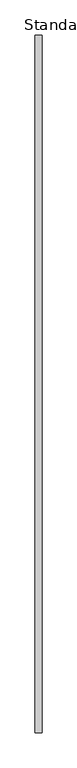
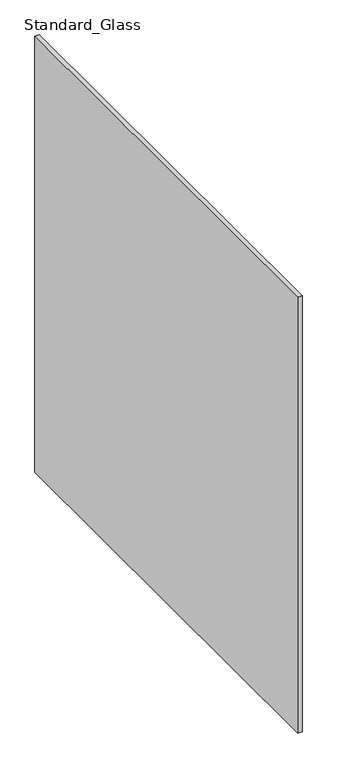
"""IFC4 building model written with IfcOpenShell, lengths in millimetres: railing geometry, Baluster-Excess-Fill-Straight-Panel-VIVA : Standard_Glass."""

from ifc_helpers import new_model, si_unit, frame, origin, place, context, project, spatial, polyline, outline, extrude, source, transform, mapped, element, save


def standard_glass_70b5ddb1(model_context):
    return source(origin(), model_context, "Body", "SweptSolid", [
        extrude(outline(polyline([(36.7665, -1.0851207), (36.7665, -987.425), (27.2415, -987.425), (27.2415, -1.0851207), (36.7665, -1.0851207)])), frame((0.0, 0.0, 76.581), z_axis=(0.0, 0.0, 1.0), x_axis=(1.0, 0.0, 0.0)), (0.0, 0.0, 1.0), 998.22),
    ])


if __name__ == "__main__":
    model = new_model("IFC4")
    model_context = context("Model", 3, world=origin())
    ifc_project = project(units=[si_unit("LENGTHUNIT", "METRE", prefix="MILLI")], contexts=[model_context])
    site = spatial("IfcSite", under=ifc_project)
    building = spatial("IfcBuilding", under=site)
    placement = place(None, origin())
    standard_glass_shape = standard_glass_70b5ddb1(model_context)
    element("IfcRailing", 1, ObjectType="Baluster-Excess-Fill-Straight-Panel-VIVA : Standard_Glass", at=placement, inside=building, context=model_context, shape_type="MappedRepresentation", body=[
        mapped(standard_glass_shape, transform((0.0, 0.0, 0.0), x_axis=(1.0, 0.0, 0.0), y_axis=(0.0, 1.0, 0.0), z_axis=(0.0, 0.0, 1.0))),
    ])
    save(model, "model.ifc")
